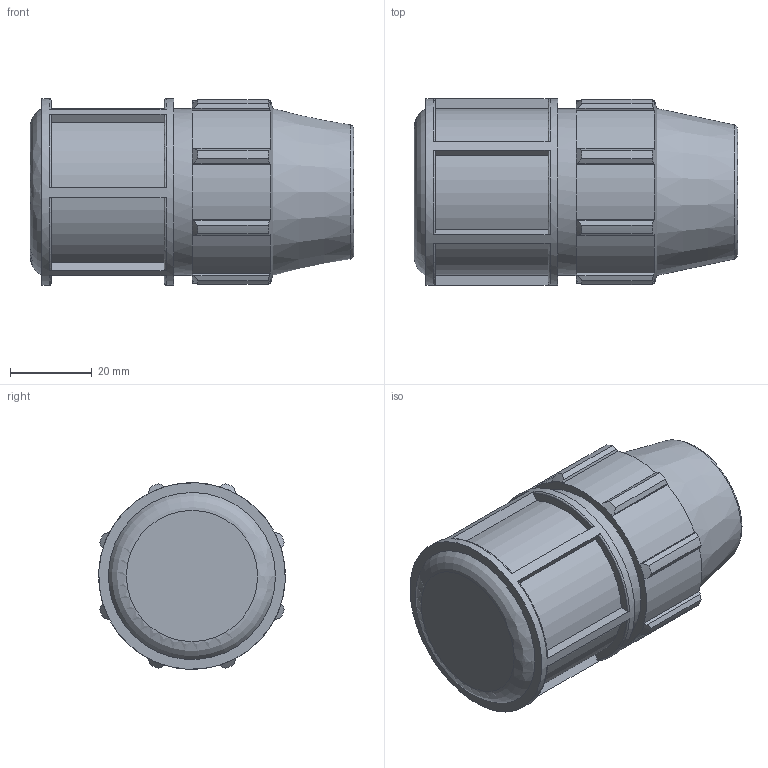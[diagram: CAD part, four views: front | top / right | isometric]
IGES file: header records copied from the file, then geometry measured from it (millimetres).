
Global section: file name: 0712M0050.ipt; native system: Autodesk Inventor 2019; preprocessor: unknown; author: Кирилл,,11,0; organization: 20170224.180708; date: 20210826.124719; units: inch
Bounding box: 78.99 x 45.56 x 45.6 mm (x, y, z)
Volume: 79206.5 mm3; surface area: 20067 mm2
Topology: 1 solids, 1 shells, 115 faces, 313 edges, 210 vertices
Faces by surface type: plane 63, cylinder 24, revolution 18, cone 10
Full cylindrical faces by diameter (mm): 40.805 x1, 45.606 x1
